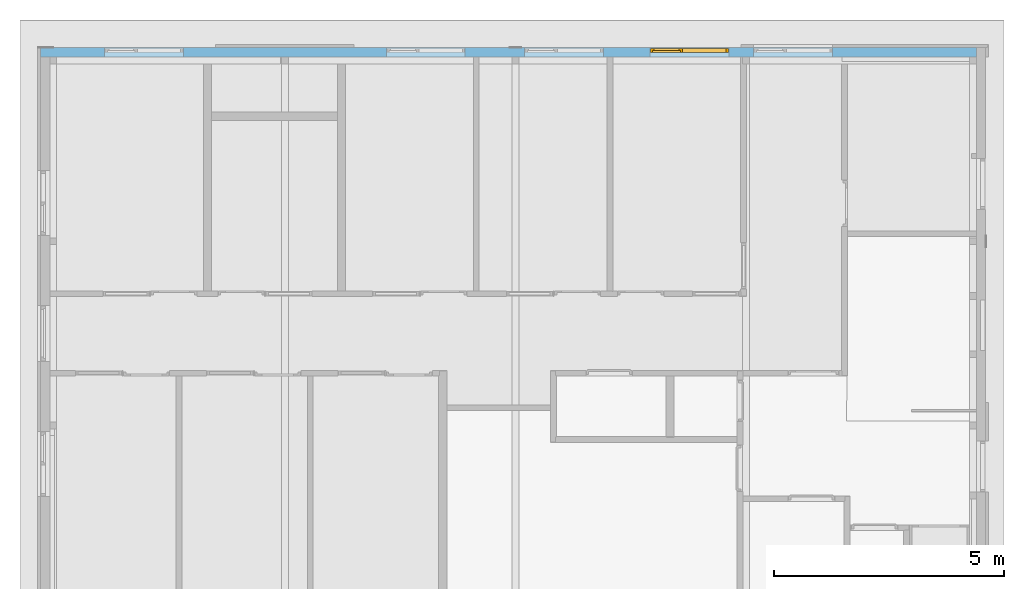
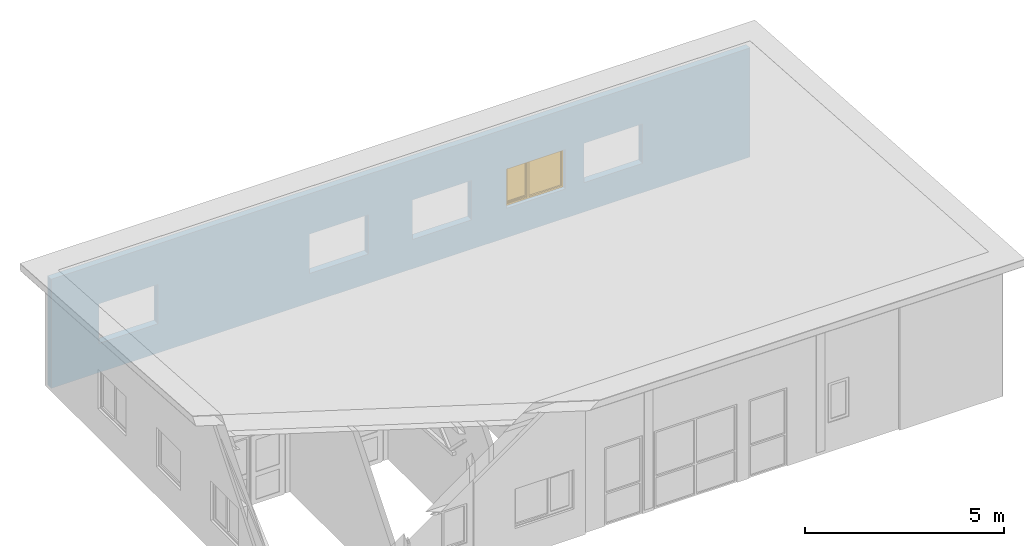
# One storey, part 27 of 37: 1 window, 5 openings, plus 1 element that does not belong to this part.
"""IFC2X3 building model written with IfcOpenShell, lengths in millimetres."""

from ifc_helpers import new_model, entity, si_unit, converted_unit, frame, frame_2d, origin, origin_with_axes, place, context, subcontext, project, spatial, rectangle, extrude, clip, halfspace, faceted_brep, material, layer, layer_set, layer_usage, type_object, element, fill, save


model = new_model("IFC2X3")

# Units and contexts
model_context = context("Model", 3, precision=1e-05, world=origin())
plan_context = context("Plan", 3, precision=1e-05, world=origin())
body_context = subcontext(model_context, "Body", "Model", "MODEL_VIEW")
ifc_project = project(units=[si_unit("LENGTHUNIT", "METRE", prefix="MILLI"), converted_unit("PLANEANGLEUNIT", "DEGREE", entity("IfcPlaneAngleMeasure", 0.0174532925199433), si_unit("PLANEANGLEUNIT", "RADIAN"), dimensions=[0, 0, 0, 0, 0, 0, 0]), si_unit("AREAUNIT", "SQUARE_METRE"), si_unit("VOLUMEUNIT", "CUBIC_METRE")], contexts=[model_context, plan_context])

# Building, storey
building_placement = place(None, origin())
building = spatial("IfcBuilding", under=ifc_project, at=building_placement, Name="HEKF Administrasjonbygg", CompositionType="ELEMENT")
storey_placement = place(building_placement, frame((0.0, 0.0, 9900.0), z_axis=(0.0, 0.0, 1.0), x_axis=(1.0, 0.0, 0.0)))
storey = spatial("IfcBuildingStorey", under=building, at=storey_placement, Name="Plan 2", CompositionType="ELEMENT", Elevation=9900.0)

# Wall, openings, window
ifc_material_1 = material(Name="Paroc 200")
ifc_layer = layer(ifc_material_1, 200.0)
ifc_layer_set = layer_set([ifc_layer])
ifc_layer_usage = layer_usage(ifc_layer_set, "AXIS2", "POSITIVE", 0.0)
wall_placement = place(storey_placement, frame((9699.999999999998, 0.0, 0.0), z_axis=(0.0, 0.0, 1.0), x_axis=(1.0, 0.0, 0.0)))
wall = element("IfcWallStandardCase", 1, at=wall_placement, inside=storey, material=ifc_layer_usage, context=body_context, shape_type="Clipping", body=[
    clip(extrude(rectangle(XDim=20300.0, YDim=200.0, at=frame_2d((10150.0, 100.0), x_axis=(1.0, 0.0))), origin_with_axes(), (0.0, 0.0, 1.0), 3349.999999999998), halfspace(frame((0.0, 0.0, 3349.999999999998), z_axis=(0.0, -0.06651901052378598, -0.9977851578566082), x_axis=(1.0, 0.0, 0.0)), True)),
])
opening_1_placement = place(wall_placement, frame((15470.0, 0.0, 900.0), z_axis=(0.0, 1.0, 0.0), x_axis=(0.0, 0.0, 1.0)))
element("IfcOpeningElement", 2, at=opening_1_placement, cuts=wall, Name="Window opening", ObjectType="Opening", context=body_context, shape_type="SweptSolid", body=[
    extrude(rectangle(XDim=1210.0, YDim=1710.0, at=frame_2d((605.0, 855.0), x_axis=(1.0, 0.0))), origin_with_axes(), (0.0, 0.0, 1.0), 200.0),
])
opening_2_placement = place(wall_placement, frame((7500.000000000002, 0.0, 900.0), z_axis=(0.0, 1.0, 0.0), x_axis=(0.0, 0.0, 1.0)))
element("IfcOpeningElement", 3, at=opening_2_placement, cuts=wall, Name="Window opening", ObjectType="Opening", context=body_context, shape_type="SweptSolid", body=[
    extrude(rectangle(XDim=1210.0, YDim=1710.0, at=frame_2d((605.0, 855.0), x_axis=(1.0, 0.0))), origin_with_axes(), (0.0, 0.0, 1.0), 200.0),
])
opening_3_placement = place(wall_placement, frame((13220.0, 0.0, 900.0), z_axis=(0.0, 1.0, 0.0), x_axis=(0.0, 0.0, 1.0)))
opening_3 = element("IfcOpeningElement", 4, at=opening_3_placement, cuts=wall, Name="Window opening", ObjectType="Opening", context=body_context, shape_type="SweptSolid", body=[
    extrude(rectangle(XDim=1210.0, YDim=1710.0, at=frame_2d((605.0, 855.0), x_axis=(1.0, 0.0))), origin_with_axes(), (0.0, 0.0, 1.0), 200.0),
])
opening_4_placement = place(wall_placement, frame((10500.0, 0.0, 900.0), z_axis=(0.0, 1.0, 0.0), x_axis=(0.0, 0.0, 1.0)))
element("IfcOpeningElement", 5, at=opening_4_placement, cuts=wall, Name="Window opening", ObjectType="Opening", context=body_context, shape_type="SweptSolid", body=[
    extrude(rectangle(XDim=1210.0, YDim=1710.0, at=frame_2d((605.0, 855.0), x_axis=(1.0, 0.0))), origin_with_axes(), (0.0, 0.0, 1.0), 200.0),
])
opening_5_placement = place(wall_placement, frame((1390.000000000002, 0.0, 900.0), z_axis=(0.0, 1.0, 0.0), x_axis=(0.0, 0.0, 1.0)))
element("IfcOpeningElement", 6, at=opening_5_placement, cuts=wall, Name="Window opening", ObjectType="Opening", context=body_context, shape_type="SweptSolid", body=[
    extrude(rectangle(XDim=1210.0, YDim=1710.0, at=frame_2d((605.0, 855.0), x_axis=(1.0, 0.0))), origin_with_axes(), (0.0, 0.0, 1.0), 200.0),
])
ifc_material_2 = material()
window_style = type_object("IfcWindowStyle", Name="V211", ConstructionType="NOTDEFINED", OperationType="USERDEFINED", ParameterTakesPrecedence=False, Sizeable=False)
window_placement = place(opening_3_placement, frame((0.0, 0.0, 0.0), z_axis=(1.0, 0.0, 0.0), x_axis=(0.0, 1.0, 0.0)))
window = element("IfcWindow", 7, at=window_placement, inside=storey, type_object=window_style, material=ifc_material_2, Name="V211", OverallHeight=1210.0, OverallWidth=1710.0, context=body_context, shape_type="Brep", body=[
    faceted_brep([(1700.0, 93.99999999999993, 1200.0), (1700.0, 94.0, 9.999999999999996), (1650.0, 94.00000000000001, 9.999999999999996), (1650.0, 93.99999999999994, 1200.0), (1700.0, 186.0, 10.0), (1700.0, 185.9999999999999, 1200.0), (1650.0, 185.9999999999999, 1200.0), (1650.0, 186.0, 10.0), (1700.0, 94.0, 9.999999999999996), (1700.0, 93.99999999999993, 1200.0), (1700.0, 185.9999999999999, 1200.0), (1700.0, 186.0, 10.0), (1650.0, 94.00000000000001, 9.999999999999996), (1700.0, 94.0, 9.999999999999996), (1700.0, 186.0, 10.0), (1650.0, 186.0, 10.0), (1650.0, 93.99999999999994, 1200.0), (1650.0, 94.00000000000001, 9.999999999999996), (1650.0, 186.0, 10.0), (1650.0, 185.9999999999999, 1200.0), (1700.0, 93.99999999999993, 1200.0), (1650.0, 93.99999999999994, 1200.0), (1650.0, 185.9999999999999, 1200.0), (1700.0, 185.9999999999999, 1200.0)], [[[0, 1, 2, 3]], [[4, 5, 6, 7]], [[8, 9, 10, 11]], [[12, 13, 14, 15]], [[16, 17, 18, 19]], [[20, 21, 22, 23]]], orient=[[False], [False], [False], [False], [False], [False]]),
    faceted_brep([(60.0, 94.00000000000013, 1200.0), (60.0, 94.0000000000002, 9.999999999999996), (10.0, 94.00000000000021, 9.999999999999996), (10.0, 94.00000000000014, 1200.0), (60.0, 186.0000000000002, 10.0), (60.0, 186.0000000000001, 1200.0), (10.0, 186.0000000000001, 1200.0), (10.0, 186.0000000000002, 10.0), (60.0, 94.0000000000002, 9.999999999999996), (60.0, 94.00000000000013, 1200.0), (60.0, 186.0000000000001, 1200.0), (60.0, 186.0000000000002, 10.0), (10.0, 94.00000000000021, 9.999999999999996), (60.0, 94.0000000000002, 9.999999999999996), (60.0, 186.0000000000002, 10.0), (10.0, 186.0000000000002, 10.0), (10.0, 94.00000000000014, 1200.0), (10.0, 94.00000000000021, 9.999999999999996), (10.0, 186.0000000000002, 10.0), (10.0, 186.0000000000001, 1200.0), (60.0, 94.00000000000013, 1200.0), (10.0, 94.00000000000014, 1200.0), (10.0, 186.0000000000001, 1200.0), (60.0, 186.0000000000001, 1200.0)], [[[0, 1, 2, 3]], [[4, 5, 6, 7]], [[8, 9, 10, 11]], [[12, 13, 14, 15]], [[16, 17, 18, 19]], [[20, 21, 22, 23]]], orient=[[False], [False], [False], [False], [False], [False]]),
    faceted_brep([(1650.0, 94.00000000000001, 60.0), (1650.0, 94.00000000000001, 9.999999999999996), (60.00000000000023, 94.0000000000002, 9.999999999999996), (60.00000000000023, 94.0000000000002, 60.0), (1650.0, 186.0, 10.0), (1650.0, 186.0, 60.0), (60.00000000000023, 186.0000000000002, 60.0), (60.00000000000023, 186.0000000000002, 10.0), (1650.0, 94.00000000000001, 9.999999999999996), (1650.0, 94.00000000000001, 60.0), (1650.0, 186.0, 60.0), (1650.0, 186.0, 10.0), (60.00000000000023, 94.0000000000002, 9.999999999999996), (1650.0, 94.00000000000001, 9.999999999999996), (1650.0, 186.0, 10.0), (60.00000000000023, 186.0000000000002, 10.0), (60.00000000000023, 94.0000000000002, 60.0), (60.00000000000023, 94.0000000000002, 9.999999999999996), (60.00000000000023, 186.0000000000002, 10.0), (60.00000000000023, 186.0000000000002, 60.0), (1650.0, 94.00000000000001, 60.0), (60.00000000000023, 94.0000000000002, 60.0), (60.00000000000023, 186.0000000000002, 60.0), (1650.0, 186.0, 60.0)], [[[0, 1, 2, 3]], [[4, 5, 6, 7]], [[8, 9, 10, 11]], [[12, 13, 14, 15]], [[16, 17, 18, 19]], [[20, 21, 22, 23]]], orient=[[False], [False], [False], [False], [False], [False]]),
    faceted_brep([(1650.0, 93.99999999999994, 1200.0), (1650.0, 93.99999999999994, 1150.0), (60.00000000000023, 94.00000000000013, 1150.0), (60.00000000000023, 94.00000000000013, 1200.0), (1650.0, 185.9999999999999, 1150.0), (1650.0, 185.9999999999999, 1200.0), (60.00000000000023, 186.0000000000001, 1200.0), (60.00000000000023, 186.0000000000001, 1150.0), (1650.0, 93.99999999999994, 1150.0), (1650.0, 93.99999999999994, 1200.0), (1650.0, 185.9999999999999, 1200.0), (1650.0, 185.9999999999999, 1150.0), (60.00000000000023, 94.00000000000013, 1150.0), (1650.0, 93.99999999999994, 1150.0), (1650.0, 185.9999999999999, 1150.0), (60.00000000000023, 186.0000000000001, 1150.0), (60.00000000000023, 94.00000000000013, 1200.0), (60.00000000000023, 94.00000000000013, 1150.0), (60.00000000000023, 186.0000000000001, 1150.0), (60.00000000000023, 186.0000000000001, 1200.0), (1650.0, 93.99999999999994, 1200.0), (60.00000000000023, 94.00000000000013, 1200.0), (60.00000000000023, 186.0000000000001, 1200.0), (1650.0, 185.9999999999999, 1200.0)], [[[0, 1, 2, 3]], [[4, 5, 6, 7]], [[8, 9, 10, 11]], [[12, 13, 14, 15]], [[16, 17, 18, 19]], [[20, 21, 22, 23]]], orient=[[False], [False], [False], [False], [False], [False]]),
    faceted_brep([(710.0000000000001, 94.00000000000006, 1150.0), (710.0000000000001, 94.00000000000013, 60.00000000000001), (660.0, 94.00000000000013, 60.00000000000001), (660.0, 94.00000000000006, 1150.0), (710.0000000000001, 186.0000000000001, 60.00000000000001), (710.0000000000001, 186.0000000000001, 1150.0), (660.0, 186.0000000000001, 1150.0), (660.0, 186.0000000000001, 60.00000000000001), (710.0000000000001, 94.00000000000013, 60.00000000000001), (710.0000000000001, 94.00000000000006, 1150.0), (710.0000000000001, 186.0000000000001, 1150.0), (710.0000000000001, 186.0000000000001, 60.00000000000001), (660.0, 94.00000000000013, 60.00000000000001), (710.0000000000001, 94.00000000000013, 60.00000000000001), (710.0000000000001, 186.0000000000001, 60.00000000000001), (660.0, 186.0000000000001, 60.00000000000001), (660.0, 94.00000000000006, 1150.0), (660.0, 94.00000000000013, 60.00000000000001), (660.0, 186.0000000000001, 60.00000000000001), (660.0, 186.0000000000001, 1150.0), (710.0000000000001, 94.00000000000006, 1150.0), (660.0, 94.00000000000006, 1150.0), (660.0, 186.0000000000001, 1150.0), (710.0000000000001, 186.0000000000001, 1150.0)], [[[0, 1, 2, 3]], [[4, 5, 6, 7]], [[8, 9, 10, 11]], [[12, 13, 14, 15]], [[16, 17, 18, 19]], [[20, 21, 22, 23]]], orient=[[False], [False], [False], [False], [False], [False]]),
    faceted_brep([(1650.0, 140.0, 60.00000000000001), (710.0000000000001, 140.0000000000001, 60.00000000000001), (710.0000000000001, 140.0000000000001, 1150.0), (1650.0, 139.9999999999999, 1150.0), (1650.0, 141.0, 60.00000000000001), (1650.0, 140.9999999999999, 1150.0), (710.0000000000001, 141.0000000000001, 1150.0), (710.0000000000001, 141.0000000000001, 60.00000000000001), (1650.0, 140.0, 60.00000000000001), (1650.0, 141.0, 60.00000000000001), (710.0000000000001, 141.0000000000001, 60.00000000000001), (710.0000000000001, 140.0000000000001, 60.00000000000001), (710.0000000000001, 140.0000000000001, 60.00000000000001), (710.0000000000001, 141.0000000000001, 60.00000000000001), (710.0000000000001, 141.0000000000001, 1150.0), (710.0000000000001, 140.0000000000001, 1150.0), (710.0000000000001, 140.0000000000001, 1150.0), (710.0000000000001, 141.0000000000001, 1150.0), (1650.0, 140.9999999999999, 1150.0), (1650.0, 139.9999999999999, 1150.0), (1650.0, 139.9999999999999, 1150.0), (1650.0, 140.9999999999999, 1150.0), (1650.0, 141.0, 60.00000000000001), (1650.0, 140.0, 60.00000000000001)], [[[0, 1, 2, 3]], [[4, 5, 6, 7]], [[8, 9, 10, 11]], [[12, 13, 14, 15]], [[16, 17, 18, 19]], [[20, 21, 22, 23]]], orient=[[False], [False], [False], [False], [False], [False]]),
    faceted_brep([(680.0000000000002, 136.0000000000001, 1170.0), (680.0000000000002, 136.0000000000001, 40.0), (630.0000000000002, 136.0000000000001, 40.0), (630.0000000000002, 136.0000000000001, 1170.0), (680.0000000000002, 186.0000000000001, 40.0), (680.0000000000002, 186.0000000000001, 1170.0), (630.0000000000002, 186.0000000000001, 1170.0), (630.0000000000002, 186.0000000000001, 40.0), (680.0000000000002, 136.0000000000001, 40.0), (680.0000000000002, 136.0000000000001, 1170.0), (680.0000000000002, 186.0000000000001, 1170.0), (680.0000000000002, 186.0000000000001, 40.0), (630.0000000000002, 136.0000000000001, 40.0), (680.0000000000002, 136.0000000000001, 40.0), (680.0000000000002, 186.0000000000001, 40.0), (630.0000000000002, 186.0000000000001, 40.0), (630.0000000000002, 136.0000000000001, 1170.0), (630.0000000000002, 136.0000000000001, 40.0), (630.0000000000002, 186.0000000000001, 40.0), (630.0000000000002, 186.0000000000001, 1170.0), (680.0000000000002, 136.0000000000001, 1170.0), (630.0000000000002, 136.0000000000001, 1170.0), (630.0000000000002, 186.0000000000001, 1170.0), (680.0000000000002, 186.0000000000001, 1170.0)], [[[0, 1, 2, 3]], [[4, 5, 6, 7]], [[8, 9, 10, 11]], [[12, 13, 14, 15]], [[16, 17, 18, 19]], [[20, 21, 22, 23]]], orient=[[False], [False], [False], [False], [False], [False]]),
    faceted_brep([(90.00000000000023, 136.0000000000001, 1170.0), (90.00000000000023, 136.0000000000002, 40.0), (40.00000000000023, 136.0000000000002, 40.0), (40.00000000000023, 136.0000000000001, 1170.0), (90.00000000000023, 186.0000000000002, 40.0), (90.00000000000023, 186.0000000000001, 1170.0), (40.00000000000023, 186.0000000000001, 1170.0), (40.00000000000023, 186.0000000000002, 40.0), (90.00000000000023, 136.0000000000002, 40.0), (90.00000000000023, 136.0000000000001, 1170.0), (90.00000000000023, 186.0000000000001, 1170.0), (90.00000000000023, 186.0000000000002, 40.0), (40.00000000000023, 136.0000000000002, 40.0), (90.00000000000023, 136.0000000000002, 40.0), (90.00000000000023, 186.0000000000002, 40.0), (40.00000000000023, 186.0000000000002, 40.0), (40.00000000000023, 136.0000000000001, 1170.0), (40.00000000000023, 136.0000000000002, 40.0), (40.00000000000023, 186.0000000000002, 40.0), (40.00000000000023, 186.0000000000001, 1170.0), (90.00000000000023, 136.0000000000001, 1170.0), (40.00000000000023, 136.0000000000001, 1170.0), (40.00000000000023, 186.0000000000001, 1170.0), (90.00000000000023, 186.0000000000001, 1170.0)], [[[0, 1, 2, 3]], [[4, 5, 6, 7]], [[8, 9, 10, 11]], [[12, 13, 14, 15]], [[16, 17, 18, 19]], [[20, 21, 22, 23]]], orient=[[False], [False], [False], [False], [False], [False]]),
    faceted_brep([(630.0000000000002, 136.0000000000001, 90.0), (630.0000000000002, 136.0000000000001, 40.0), (90.00000000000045, 136.0000000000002, 40.0), (90.00000000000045, 136.0000000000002, 90.0), (630.0000000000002, 186.0000000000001, 40.0), (630.0000000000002, 186.0000000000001, 90.0), (90.00000000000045, 186.0000000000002, 90.0), (90.00000000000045, 186.0000000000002, 40.0), (630.0000000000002, 136.0000000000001, 40.0), (630.0000000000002, 136.0000000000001, 90.0), (630.0000000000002, 186.0000000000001, 90.0), (630.0000000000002, 186.0000000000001, 40.0), (90.00000000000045, 136.0000000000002, 40.0), (630.0000000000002, 136.0000000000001, 40.0), (630.0000000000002, 186.0000000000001, 40.0), (90.00000000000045, 186.0000000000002, 40.0), (90.00000000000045, 136.0000000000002, 90.0), (90.00000000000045, 136.0000000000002, 40.0), (90.00000000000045, 186.0000000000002, 40.0), (90.00000000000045, 186.0000000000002, 90.0), (630.0000000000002, 136.0000000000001, 90.0), (90.00000000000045, 136.0000000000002, 90.0), (90.00000000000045, 186.0000000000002, 90.0), (630.0000000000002, 186.0000000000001, 90.0)], [[[0, 1, 2, 3]], [[4, 5, 6, 7]], [[8, 9, 10, 11]], [[12, 13, 14, 15]], [[16, 17, 18, 19]], [[20, 21, 22, 23]]], orient=[[False], [False], [False], [False], [False], [False]]),
    faceted_brep([(630.0000000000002, 136.0000000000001, 1170.0), (630.0000000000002, 136.0000000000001, 1120.0), (90.00000000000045, 136.0000000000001, 1120.0), (90.00000000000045, 136.0000000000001, 1170.0), (630.0000000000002, 186.0000000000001, 1120.0), (630.0000000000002, 186.0000000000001, 1170.0), (90.00000000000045, 186.0000000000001, 1170.0), (90.00000000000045, 186.0000000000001, 1120.0), (630.0000000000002, 136.0000000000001, 1120.0), (630.0000000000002, 136.0000000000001, 1170.0), (630.0000000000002, 186.0000000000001, 1170.0), (630.0000000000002, 186.0000000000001, 1120.0), (90.00000000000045, 136.0000000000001, 1120.0), (630.0000000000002, 136.0000000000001, 1120.0), (630.0000000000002, 186.0000000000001, 1120.0), (90.00000000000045, 186.0000000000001, 1120.0), (90.00000000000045, 136.0000000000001, 1170.0), (90.00000000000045, 136.0000000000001, 1120.0), (90.00000000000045, 186.0000000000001, 1120.0), (90.00000000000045, 186.0000000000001, 1170.0), (630.0000000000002, 136.0000000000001, 1170.0), (90.00000000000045, 136.0000000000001, 1170.0), (90.00000000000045, 186.0000000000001, 1170.0), (630.0000000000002, 186.0000000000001, 1170.0)], [[[0, 1, 2, 3]], [[4, 5, 6, 7]], [[8, 9, 10, 11]], [[12, 13, 14, 15]], [[16, 17, 18, 19]], [[20, 21, 22, 23]]], orient=[[False], [False], [False], [False], [False], [False]]),
    faceted_brep([(630.0000000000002, 161.0000000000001, 90.00000000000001), (90.00000000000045, 161.0000000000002, 90.00000000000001), (90.00000000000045, 161.0000000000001, 1120.0), (630.0000000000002, 161.0000000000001, 1120.0), (630.0000000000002, 162.0000000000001, 90.00000000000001), (630.0000000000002, 162.0000000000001, 1120.0), (90.00000000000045, 162.0000000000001, 1120.0), (90.00000000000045, 162.0000000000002, 90.00000000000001), (630.0000000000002, 161.0000000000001, 90.00000000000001), (630.0000000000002, 162.0000000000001, 90.00000000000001), (90.00000000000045, 162.0000000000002, 90.00000000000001), (90.00000000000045, 161.0000000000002, 90.00000000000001), (90.00000000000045, 161.0000000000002, 90.00000000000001), (90.00000000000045, 162.0000000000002, 90.00000000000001), (90.00000000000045, 162.0000000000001, 1120.0), (90.00000000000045, 161.0000000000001, 1120.0), (90.00000000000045, 161.0000000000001, 1120.0), (90.00000000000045, 162.0000000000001, 1120.0), (630.0000000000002, 162.0000000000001, 1120.0), (630.0000000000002, 161.0000000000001, 1120.0), (630.0000000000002, 161.0000000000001, 1120.0), (630.0000000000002, 162.0000000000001, 1120.0), (630.0000000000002, 162.0000000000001, 90.00000000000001), (630.0000000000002, 161.0000000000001, 90.00000000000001)], [[[0, 1, 2, 3]], [[4, 5, 6, 7]], [[8, 9, 10, 11]], [[12, 13, 14, 15]], [[16, 17, 18, 19]], [[20, 21, 22, 23]]], orient=[[False], [False], [False], [False], [False], [False]]),
])
fill(opening_3, window)

save(model, "model.ifc")
